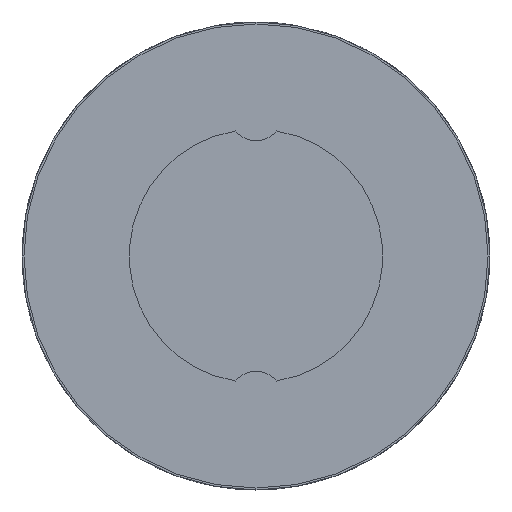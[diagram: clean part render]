
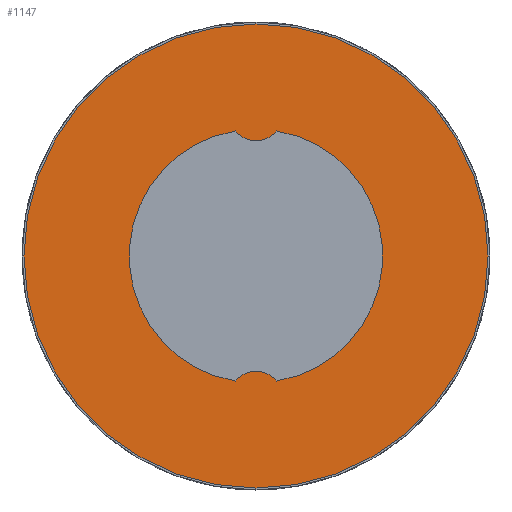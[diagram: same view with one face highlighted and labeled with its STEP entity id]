
A CAD part, left-side view. The second image highlights one B-rep face of the part: STEP entity #1147.
In plain terms, the highlighted planar face has unit normal (-1, 0, 0).
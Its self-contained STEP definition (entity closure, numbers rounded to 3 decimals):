
#808=CARTESIAN_POINT('',(0.0,-1.069,6.412));
#809=VERTEX_POINT('',#808);
#816=CARTESIAN_POINT('',(0.0,1.069,6.412));
#817=VERTEX_POINT('',#816);
#818=CARTESIAN_POINT('',(0.0,0.,7.299));
#819=DIRECTION('',(1.,0.0,0.0));
#820=DIRECTION('',(0.0,-0.769,-0.639));
#821=AXIS2_PLACEMENT_3D('',#818,#819,#820);
#822=CIRCLE('',#821,1.389);
#823=EDGE_CURVE('',#809,#817,#822,.T.);
#850=CARTESIAN_POINT('',(0.0,1.069,-6.412));
#851=VERTEX_POINT('',#850);
#858=CARTESIAN_POINT('',(0.0,-1.069,-6.412));
#859=VERTEX_POINT('',#858);
#860=CARTESIAN_POINT('',(0.0,0.,-7.299));
#861=DIRECTION('',(1.0,0.0,0.0));
#862=DIRECTION('',(0.0,0.769,0.639));
#863=AXIS2_PLACEMENT_3D('',#860,#861,#862);
#864=CIRCLE('',#863,1.389);
#865=EDGE_CURVE('',#851,#859,#864,.T.);
#882=CARTESIAN_POINT('',(0.,0.0,0.));
#883=DIRECTION('',(-1.0,0.0,0.0));
#884=DIRECTION('',(0.0,0.0,1.0));
#885=AXIS2_PLACEMENT_3D('',#882,#883,#884);
#886=CIRCLE('',#885,6.5);
#887=EDGE_CURVE('',#817,#851,#886,.T.);
#914=CARTESIAN_POINT('',(0.,0.0,0.));
#915=DIRECTION('',(-1.0,0.0,0.0));
#916=DIRECTION('',(0.0,0.0,1.0));
#917=AXIS2_PLACEMENT_3D('',#914,#915,#916);
#918=CIRCLE('',#917,6.5);
#919=EDGE_CURVE('',#859,#809,#918,.T.);
#1118=CARTESIAN_POINT('',(0.0,0.0,11.9));
#1119=VERTEX_POINT('',#1118);
#1120=CARTESIAN_POINT('',(0.,0.0,0.));
#1121=DIRECTION('',(-1.0,0.0,0.0));
#1122=DIRECTION('',(0.0,0.0,1.0));
#1123=AXIS2_PLACEMENT_3D('',#1120,#1121,#1122);
#1124=CIRCLE('',#1123,11.9);
#1125=EDGE_CURVE('',#1119,#1119,#1124,.T.);
#1133=CARTESIAN_POINT('',(0.0,0.0,9.2));
#1134=DIRECTION('',(-1.0,0.0,0.0));
#1135=DIRECTION('',(0.0,0.0,1.0));
#1136=AXIS2_PLACEMENT_3D('',#1133,#1134,#1135);
#1137=PLANE('',#1136);
#1138=ORIENTED_EDGE('',*,*,#1125,.T.);
#1139=EDGE_LOOP('',(#1138));
#1140=FACE_OUTER_BOUND('',#1139,.T.);
#1141=ORIENTED_EDGE('',*,*,#919,.F.);
#1142=ORIENTED_EDGE('',*,*,#865,.F.);
#1143=ORIENTED_EDGE('',*,*,#887,.F.);
#1144=ORIENTED_EDGE('',*,*,#823,.F.);
#1145=EDGE_LOOP('',(#1141,#1142,#1143,#1144));
#1146=FACE_BOUND('',#1145,.T.);
#1147=ADVANCED_FACE('',(#1140,#1146),#1137,.T.);
